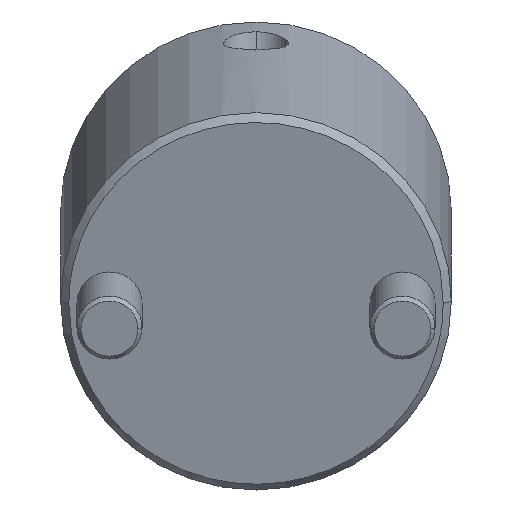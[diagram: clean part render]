
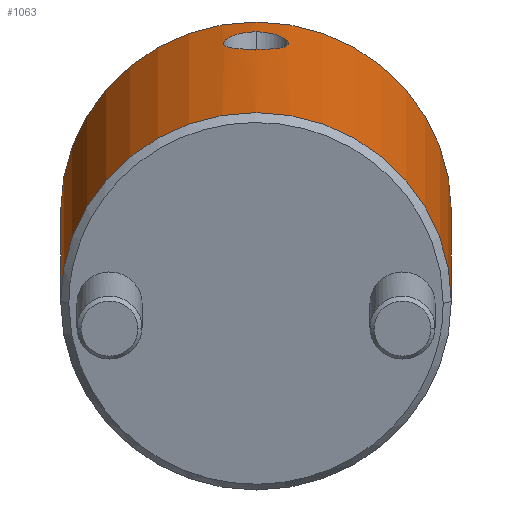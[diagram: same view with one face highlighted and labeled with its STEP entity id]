
A CAD part, front view. The second image highlights one B-rep face of the part: STEP entity #1063.
In plain terms, the highlighted cylindrical face has radius 24 mm (diameter 48 mm), a partial arc.
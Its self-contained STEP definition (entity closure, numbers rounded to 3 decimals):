
#805=CARTESIAN_POINT('Vertex',(0.,24.,1.)) ;
#808=CARTESIAN_POINT('Axis2P3D Location',(0.,0.,1.)) ;
#812=CARTESIAN_POINT('Vertex',(0.,-24.,1.)) ;
#964=CARTESIAN_POINT('Axis2P3D Location',(0.,0.,-2.25)) ;
#969=CARTESIAN_POINT('Line Origine',(0.,24.,-2.25)) ;
#973=CARTESIAN_POINT('Vertex',(0.,24.,44.)) ;
#976=CARTESIAN_POINT('Axis2P3D Location',(0.,0.,44.)) ;
#980=CARTESIAN_POINT('Vertex',(0.,-24.,44.)) ;
#983=CARTESIAN_POINT('Line Origine',(0.,-24.,-2.25)) ;
#995=CARTESIAN_POINT('Control Point',(24.,0.,39.312)) ;
#996=CARTESIAN_POINT('Control Point',(24.,0.381,39.312)) ;
#997=CARTESIAN_POINT('Control Point',(23.992,0.757,39.263)) ;
#998=CARTESIAN_POINT('Control Point',(23.978,1.125,39.167)) ;
#999=CARTESIAN_POINT('Control Point',(23.946,1.656,38.956)) ;
#1000=CARTESIAN_POINT('Control Point',(23.905,2.142,38.651)) ;
#1001=CARTESIAN_POINT('Control Point',(23.89,2.302,38.536)) ;
#1002=CARTESIAN_POINT('Control Point',(23.859,2.608,38.288)) ;
#1003=CARTESIAN_POINT('Control Point',(23.826,2.886,38.002)) ;
#1004=CARTESIAN_POINT('Control Point',(23.81,3.019,37.847)) ;
#1005=CARTESIAN_POINT('Control Point',(23.778,3.265,37.525)) ;
#1006=CARTESIAN_POINT('Control Point',(23.748,3.472,37.174)) ;
#1007=CARTESIAN_POINT('Control Point',(23.734,3.565,36.993)) ;
#1008=CARTESIAN_POINT('Control Point',(23.709,3.731,36.621)) ;
#1009=CARTESIAN_POINT('Control Point',(23.689,3.851,36.232)) ;
#1010=CARTESIAN_POINT('Control Point',(23.681,3.901,36.035)) ;
#1011=CARTESIAN_POINT('Control Point',(23.668,3.976,35.638)) ;
#1012=CARTESIAN_POINT('Control Point',(23.664,4.004,35.232)) ;
#1013=CARTESIAN_POINT('Control Point',(23.663,4.007,35.033)) ;
#1014=CARTESIAN_POINT('Control Point',(23.669,3.974,34.33)) ;
#1015=CARTESIAN_POINT('Control Point',(23.698,3.799,33.653)) ;
#1016=CARTESIAN_POINT('Control Point',(23.73,3.604,33.199)) ;
#1017=CARTESIAN_POINT('Control Point',(23.799,3.136,32.447)) ;
#1018=CARTESIAN_POINT('Control Point',(23.874,2.484,31.853)) ;
#1019=CARTESIAN_POINT('Control Point',(23.906,2.162,31.627)) ;
#1020=CARTESIAN_POINT('Control Point',(23.955,1.553,31.301)) ;
#1021=CARTESIAN_POINT('Control Point',(23.986,0.889,31.112)) ;
#1022=CARTESIAN_POINT('Control Point',(23.995,0.595,31.057)) ;
#1023=CARTESIAN_POINT('Control Point',(24.,0.299,31.03)) ;
#1024=CARTESIAN_POINT('Control Point',(24.,0.,31.03)) ;
#1025=CARTESIAN_POINT('Vertex',(24.,0.,39.312)) ;
#1027=CARTESIAN_POINT('Vertex',(24.,0.,31.03)) ;
#1031=CARTESIAN_POINT('Control Point',(24.,0.,31.03)) ;
#1032=CARTESIAN_POINT('Control Point',(24.,-0.49,31.03)) ;
#1033=CARTESIAN_POINT('Control Point',(23.988,-0.973,31.103)) ;
#1034=CARTESIAN_POINT('Control Point',(23.963,-1.449,31.251)) ;
#1035=CARTESIAN_POINT('Control Point',(23.902,-2.245,31.642)) ;
#1036=CARTESIAN_POINT('Control Point',(23.826,-2.902,32.232)) ;
#1037=CARTESIAN_POINT('Control Point',(23.793,-3.16,32.529)) ;
#1038=CARTESIAN_POINT('Control Point',(23.731,-3.596,33.178)) ;
#1039=CARTESIAN_POINT('Control Point',(23.687,-3.866,33.919)) ;
#1040=CARTESIAN_POINT('Control Point',(23.671,-3.958,34.308)) ;
#1041=CARTESIAN_POINT('Control Point',(23.656,-4.048,35.113)) ;
#1042=CARTESIAN_POINT('Control Point',(23.673,-3.946,35.921)) ;
#1043=CARTESIAN_POINT('Control Point',(23.69,-3.849,36.316)) ;
#1044=CARTESIAN_POINT('Control Point',(23.724,-3.637,36.89)) ;
#1045=CARTESIAN_POINT('Control Point',(23.768,-3.329,37.417)) ;
#1046=CARTESIAN_POINT('Control Point',(23.784,-3.217,37.586)) ;
#1047=CARTESIAN_POINT('Control Point',(23.816,-2.973,37.91)) ;
#1048=CARTESIAN_POINT('Control Point',(23.849,-2.696,38.2)) ;
#1049=CARTESIAN_POINT('Control Point',(23.865,-2.55,38.334)) ;
#1050=CARTESIAN_POINT('Control Point',(23.896,-2.246,38.584)) ;
#1051=CARTESIAN_POINT('Control Point',(23.924,-1.917,38.793)) ;
#1052=CARTESIAN_POINT('Control Point',(23.937,-1.747,38.887)) ;
#1053=CARTESIAN_POINT('Control Point',(23.967,-1.315,39.092)) ;
#1054=CARTESIAN_POINT('Control Point',(23.987,-0.856,39.228)) ;
#1055=CARTESIAN_POINT('Control Point',(23.996,-0.575,39.284)) ;
#1056=CARTESIAN_POINT('Control Point',(24.,-0.289,39.312)) ;
#1057=CARTESIAN_POINT('Control Point',(24.,0.,39.312)) ;
#809=DIRECTION('Axis2P3D Direction',(0.,0.,1.)) ;
#965=DIRECTION('Axis2P3D Direction',(0.,-0.,1.)) ;
#966=DIRECTION('Axis2P3D XDirection',(0.,-1.,0.)) ;
#970=DIRECTION('Vector Direction',(0.,0.,1.)) ;
#977=DIRECTION('Axis2P3D Direction',(0.,-0.,1.)) ;
#984=DIRECTION('Vector Direction',(0.,0.,1.)) ;
#810=AXIS2_PLACEMENT_3D('Circle Axis2P3D',#808,#809,$) ;
#967=AXIS2_PLACEMENT_3D('Cylinder Axis2P3D',#964,#965,#966) ;
#978=AXIS2_PLACEMENT_3D('Circle Axis2P3D',#976,#977,$) ;
#989=ORIENTED_EDGE('',*,*,#975,.F.) ;
#990=ORIENTED_EDGE('',*,*,#982,.T.) ;
#991=ORIENTED_EDGE('',*,*,#987,.T.) ;
#992=ORIENTED_EDGE('',*,*,#814,.F.) ;
#1060=ORIENTED_EDGE('',*,*,#1029,.T.) ;
#1061=ORIENTED_EDGE('',*,*,#1058,.T.) ;
#1062=FACE_BOUND('',#1059,.T.) ;
#971=VECTOR('Line Direction',#970,1.) ;
#985=VECTOR('Line Direction',#984,1.) ;
#1063=ADVANCED_FACE('MANIFOLD_SOLID_BREP #1138',(#993,#1062),#968,.T.) ;
#994=B_SPLINE_CURVE_WITH_KNOTS('',5,(#995,#996,#997,#998,#999,#1000,#1001,#1002,#1003,#1004,#1005,#1006,#1007,#1008,#1009,#1010,#1011,#1012,#1013,#1014,#1015,#1016,#1017,#1018,#1019,#1020,#1021,#1022,#1023,#1024),.UNSPECIFIED.,.F.,.U.,(6,3,3,3,3,3,3,3,3,6),(0.,2.718,4.117,5.519,6.933,8.345,9.737,13.219,16.005,18.128),.UNSPECIFIED.) ;
#1030=B_SPLINE_CURVE_WITH_KNOTS('',5,(#1031,#1032,#1033,#1034,#1035,#1036,#1037,#1038,#1039,#1040,#1041,#1042,#1043,#1044,#1045,#1046,#1047,#1048,#1049,#1050,#1051,#1052,#1053,#1054,#1055,#1056,#1057),.UNSPECIFIED.,.F.,.U.,(6,3,3,3,3,3,3,3,6),(0.,3.484,6.273,9.048,11.861,13.272,14.676,16.068,18.126),.UNSPECIFIED.) ;
#811=CIRCLE('generated circle',#810,24.) ;
#979=CIRCLE('generated circle',#978,24.) ;
#968=CYLINDRICAL_SURFACE('generated cylinder',#967,24.) ;
#814=EDGE_CURVE('',#806,#813,#811,.F.) ;
#975=EDGE_CURVE('',#974,#806,#972,.F.) ;
#982=EDGE_CURVE('',#974,#981,#979,.F.) ;
#987=EDGE_CURVE('',#981,#813,#986,.F.) ;
#1029=EDGE_CURVE('',#1026,#1028,#994,.T.) ;
#1058=EDGE_CURVE('',#1028,#1026,#1030,.T.) ;
#988=EDGE_LOOP('',(#989,#990,#991,#992)) ;
#1059=EDGE_LOOP('',(#1060,#1061)) ;
#993=FACE_OUTER_BOUND('',#988,.T.) ;
#972=LINE('Line',#969,#971) ;
#986=LINE('Line',#983,#985) ;
#806=VERTEX_POINT('',#805) ;
#813=VERTEX_POINT('',#812) ;
#974=VERTEX_POINT('',#973) ;
#981=VERTEX_POINT('',#980) ;
#1026=VERTEX_POINT('',#1025) ;
#1028=VERTEX_POINT('',#1027) ;
